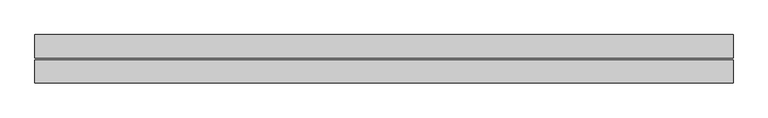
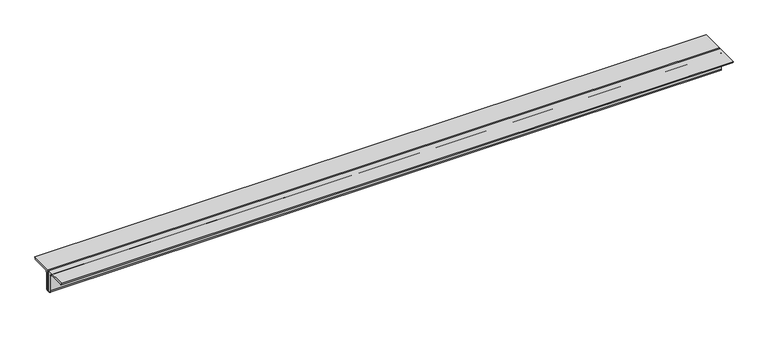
"""IFC4 building model written with IfcOpenShell, lengths in millimetres: beam geometry, Profilati doppi a L : DCED150x12."""

from ifc_helpers import new_model, si_unit, point, frame, frame_2d, origin, place, context, project, spatial, polyline, circle_curve, trimmed, segment, composite_curve, outline, extrude, source, transform, mapped, element, save


def beam_3a03d44c(model_context):
    return source(origin(), model_context, "Body", "SweptSolid", [
        extrude(outline(composite_curve([segment(polyline([(-6.0, 42.4), (-6.0, -107.6)]), True, "CONTINUOUS"), segment(trimmed(circle_curve(frame_2d((-6.0, -92.6)), 15.0), [point((-6.0, -107.6))], [point((-21.0, -92.6))], False, "CARTESIAN"), True, "CONTINUOUS"), segment(polyline([(-21.0, -92.6), (-21.0, 12.4)]), True, "CONTINUOUS"), segment(trimmed(circle_curve(frame_2d((-36.0, 12.4)), 15.0), [point((-21.0, 12.4))], [point((-36.0, 27.4))], True, "CARTESIAN"), True, "CONTINUOUS"), segment(polyline([(-36.0, 27.4), (-141.0, 27.4)]), True, "CONTINUOUS"), segment(trimmed(circle_curve(frame_2d((-141.0, 42.4)), 15.0), [point((-141.0, 27.4))], [point((-156.0, 42.4))], False, "CARTESIAN"), True, "CONTINUOUS"), segment(polyline([(-156.0, 42.4), (-6.0, 42.4)]), True, "CONTINUOUS")], self_intersect=False)), frame((-2300.0, 0.0, 0.0), z_axis=(1.0, 0.0, 0.0), x_axis=(0.0, 1.0, 0.0)), (0.0, 0.0, 1.0), 4484.0),
        extrude(outline(composite_curve([segment(polyline([(6.0, 42.4), (156.0, 42.4)]), True, "CONTINUOUS"), segment(trimmed(circle_curve(frame_2d((141.0, 42.4)), 15.0), [point((156.0, 42.4))], [point((141.0, 27.4))], False, "CARTESIAN"), True, "CONTINUOUS"), segment(polyline([(141.0, 27.4), (36.0, 27.4)]), True, "CONTINUOUS"), segment(trimmed(circle_curve(frame_2d((36.0, 12.4)), 15.0), [point((36.0, 27.4))], [point((21.0, 12.4))], True, "CARTESIAN"), True, "CONTINUOUS"), segment(polyline([(21.0, 12.4), (21.0, -92.6)]), True, "CONTINUOUS"), segment(trimmed(circle_curve(frame_2d((6.0, -92.6)), 15.0), [point((21.0, -92.6))], [point((6.0, -107.6))], False, "CARTESIAN"), True, "CONTINUOUS"), segment(polyline([(6.0, -107.6), (6.0, 42.4)]), True, "CONTINUOUS")], self_intersect=False)), frame((-2300.0, 0.0, 0.0), z_axis=(1.0, 0.0, 0.0), x_axis=(0.0, 1.0, 0.0)), (0.0, 0.0, 1.0), 4484.0),
    ])


if __name__ == "__main__":
    model = new_model("IFC4")
    model_context = context("Model", 3, world=origin())
    ifc_project = project(units=[si_unit("LENGTHUNIT", "METRE", prefix="MILLI")], contexts=[model_context])
    site = spatial("IfcSite", under=ifc_project)
    building = spatial("IfcBuilding", under=site)
    placement = place(None, origin())
    beam_shape = beam_3a03d44c(model_context)
    element("IfcBeam", 1, ObjectType="Profilati doppi a L : DCED150x12", at=placement, inside=building, context=model_context, shape_type="MappedRepresentation", body=[
        mapped(beam_shape, transform((0.0, 0.0, 0.0), x_axis=(1.0, 0.0, 0.0), y_axis=(0.0, 1.0, 0.0), z_axis=(0.0, 0.0, 1.0))),
    ])
    save(model, "model.ifc")
